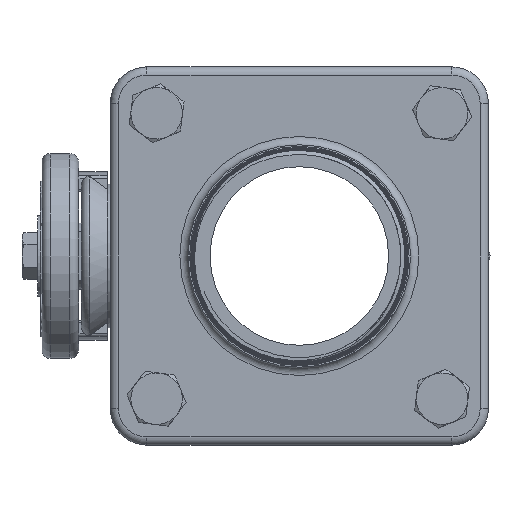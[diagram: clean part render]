
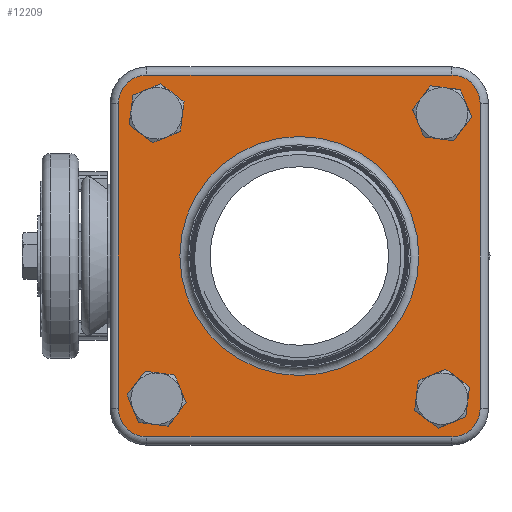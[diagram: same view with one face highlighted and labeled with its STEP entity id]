
A CAD part, left-side view. The second image highlights one B-rep face of the part: STEP entity #12209.
In plain terms, the highlighted planar face has unit normal (-1, 0, 0) as drawn and (1, 0, 0) by its records, which use the part's own axes.
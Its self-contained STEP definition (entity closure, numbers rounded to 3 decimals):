
#2355=PLANE('',#13014);
#2651=VECTOR('',#14291,1.);
#2654=VECTOR('',#14298,1.);
#2655=VECTOR('',#14317,1.);
#2658=VECTOR('',#14324,1.);
#3312=LINE('',#41540,#2651);
#3315=LINE('',#41547,#2654);
#3316=LINE('',#41564,#2655);
#3319=LINE('',#41571,#2658);
#4679=VERTEX_POINT('',#41530);
#4680=VERTEX_POINT('',#41532);
#4683=VERTEX_POINT('',#41539);
#4684=VERTEX_POINT('',#41544);
#4687=VERTEX_POINT('',#41551);
#4688=VERTEX_POINT('',#41556);
#4691=VERTEX_POINT('',#41563);
#4692=VERTEX_POINT('',#41568);
#4699=VERTEX_POINT('',#41595);
#4700=VERTEX_POINT('',#41597);
#4701=VERTEX_POINT('',#41599);
#4702=VERTEX_POINT('',#41601);
#4703=VERTEX_POINT('',#41603);
#5580=CIRCLE('',#12986,0.787);
#5586=CIRCLE('',#12995,0.787);
#5590=CIRCLE('',#13000,0.787);
#5594=CIRCLE('',#13007,0.787);
#5597=CIRCLE('',#13015,3.315);
#5598=CIRCLE('',#13016,0.493);
#5599=CIRCLE('',#13017,0.493);
#5600=CIRCLE('',#13018,0.493);
#5601=CIRCLE('',#13019,0.493);
#6197=EDGE_CURVE('',#4679,#4680,#5580,.T.);
#6201=EDGE_CURVE('',#4683,#4679,#3312,.T.);
#6205=EDGE_CURVE('',#4680,#4684,#3315,.T.);
#6207=EDGE_CURVE('',#4687,#4683,#5586,.T.);
#6211=EDGE_CURVE('',#4684,#4688,#5590,.T.);
#6213=EDGE_CURVE('',#4691,#4687,#3316,.T.);
#6217=EDGE_CURVE('',#4688,#4692,#3319,.T.);
#6219=EDGE_CURVE('',#4692,#4691,#5594,.T.);
#6229=EDGE_CURVE('',#4699,#4699,#5597,.T.);
#6230=EDGE_CURVE('',#4700,#4700,#5598,.T.);
#6231=EDGE_CURVE('',#4701,#4701,#5599,.T.);
#6232=EDGE_CURVE('',#4702,#4702,#5600,.T.);
#6233=EDGE_CURVE('',#4703,#4703,#5601,.T.);
#8303=ORIENTED_EDGE('',*,*,#6229,.F.);
#8304=ORIENTED_EDGE('',*,*,#6230,.T.);
#8305=ORIENTED_EDGE('',*,*,#6231,.T.);
#8306=ORIENTED_EDGE('',*,*,#6232,.T.);
#8307=ORIENTED_EDGE('',*,*,#6233,.T.);
#8308=ORIENTED_EDGE('',*,*,#6197,.F.);
#8309=ORIENTED_EDGE('',*,*,#6201,.F.);
#8310=ORIENTED_EDGE('',*,*,#6207,.F.);
#8311=ORIENTED_EDGE('',*,*,#6213,.F.);
#8312=ORIENTED_EDGE('',*,*,#6219,.F.);
#8313=ORIENTED_EDGE('',*,*,#6217,.F.);
#8314=ORIENTED_EDGE('',*,*,#6211,.F.);
#8315=ORIENTED_EDGE('',*,*,#6205,.F.);
#10764=EDGE_LOOP('',(#8303));
#10765=EDGE_LOOP('',(#8304));
#10766=EDGE_LOOP('',(#8305));
#10767=EDGE_LOOP('',(#8306));
#10768=EDGE_LOOP('',(#8307));
#10769=EDGE_LOOP('',(#8308,#8309,#8310,#8311,#8312,#8313,#8314,#8315));
#11521=FACE_BOUND('',#10764,.T.);
#11522=FACE_BOUND('',#10765,.T.);
#11523=FACE_BOUND('',#10766,.T.);
#11524=FACE_BOUND('',#10767,.T.);
#11525=FACE_BOUND('',#10768,.T.);
#11526=FACE_BOUND('',#10769,.T.);
#12209=ADVANCED_FACE('',(#11521,#11522,#11523,#11524,#11525,#11526),#2355,
 .T.);
#12986=AXIS2_PLACEMENT_3D('',#41531,#14281,#14282);
#12995=AXIS2_PLACEMENT_3D('',#41552,#14302,#14303);
#13000=AXIS2_PLACEMENT_3D('',#41559,#14311,#14312);
#13007=AXIS2_PLACEMENT_3D('',#41574,#14328,#14329);
#13014=AXIS2_PLACEMENT_3D('',#41593,#14347,$);
#13015=AXIS2_PLACEMENT_3D('',#41594,#14348,#14349);
#13016=AXIS2_PLACEMENT_3D('',#41596,#14350,#14351);
#13017=AXIS2_PLACEMENT_3D('',#41598,#14352,#14353);
#13018=AXIS2_PLACEMENT_3D('',#41600,#14354,#14355);
#13019=AXIS2_PLACEMENT_3D('',#41602,#14356,#14357);
#14281=DIRECTION('',(-1.,0.,0.));
#14282=DIRECTION('',(0.,0.557,0.557));
#14291=DIRECTION('',(0.,1.,0.));
#14298=DIRECTION('',(0.,0.,-1.));
#14302=DIRECTION('',(-1.,0.,0.));
#14303=DIRECTION('',(0.,-0.557,0.557));
#14311=DIRECTION('',(-1.,0.,0.));
#14312=DIRECTION('',(0.,0.557,-0.557));
#14317=DIRECTION('',(0.,0.,1.));
#14324=DIRECTION('',(0.,-1.,0.));
#14328=DIRECTION('',(-1.,0.,0.));
#14329=DIRECTION('',(0.,-0.557,-0.557));
#14347=DIRECTION('',(1.,0.,0.));
#14348=DIRECTION('',(1.,0.,0.));
#14349=DIRECTION('',(0.,0.,3.315));
#14350=DIRECTION('',(-1.,0.,0.));
#14351=DIRECTION('',(0.,0.493,0.));
#14352=DIRECTION('',(-1.,0.,0.));
#14353=DIRECTION('',(0.,0.,-0.493));
#14354=DIRECTION('',(-1.,0.,0.));
#14355=DIRECTION('',(0.,-0.493,0.));
#14356=DIRECTION('',(-1.,0.,0.));
#14357=DIRECTION('',(0.,0.,0.493));
#41530=CARTESIAN_POINT('',(1.6,4.229,5.017));
#41531=CARTESIAN_POINT('',(1.6,4.229,4.229));
#41532=CARTESIAN_POINT('',(1.6,5.017,4.229));
#41539=CARTESIAN_POINT('',(1.6,-4.229,5.017));
#41540=CARTESIAN_POINT('',(1.6,0.,5.017));
#41544=CARTESIAN_POINT('',(1.6,5.017,-4.229));
#41547=CARTESIAN_POINT('',(1.6,5.017,0.));
#41551=CARTESIAN_POINT('',(1.6,-5.017,4.229));
#41552=CARTESIAN_POINT('',(1.6,-4.229,4.229));
#41556=CARTESIAN_POINT('',(1.6,4.229,-5.017));
#41559=CARTESIAN_POINT('',(1.6,4.229,-4.229));
#41563=CARTESIAN_POINT('',(1.6,-5.017,-4.229));
#41564=CARTESIAN_POINT('',(1.6,-5.017,0.));
#41568=CARTESIAN_POINT('',(1.6,-4.229,-5.017));
#41571=CARTESIAN_POINT('',(1.6,0.,-5.017));
#41574=CARTESIAN_POINT('',(1.6,-4.229,-4.229));
#41593=CARTESIAN_POINT('',(1.6,0.,0.));
#41594=CARTESIAN_POINT('',(1.6,0.,0.));
#41595=CARTESIAN_POINT('',(1.6,0.,-3.315));
#41596=CARTESIAN_POINT('',(1.6,3.958,-3.958));
#41597=CARTESIAN_POINT('',(1.6,3.466,-3.958));
#41598=CARTESIAN_POINT('',(1.6,-3.958,-3.958));
#41599=CARTESIAN_POINT('',(1.6,-3.958,-3.466));
#41600=CARTESIAN_POINT('',(1.6,-3.958,3.958));
#41601=CARTESIAN_POINT('',(1.6,-3.466,3.958));
#41602=CARTESIAN_POINT('',(1.6,3.958,3.958));
#41603=CARTESIAN_POINT('',(1.6,3.958,3.466));
